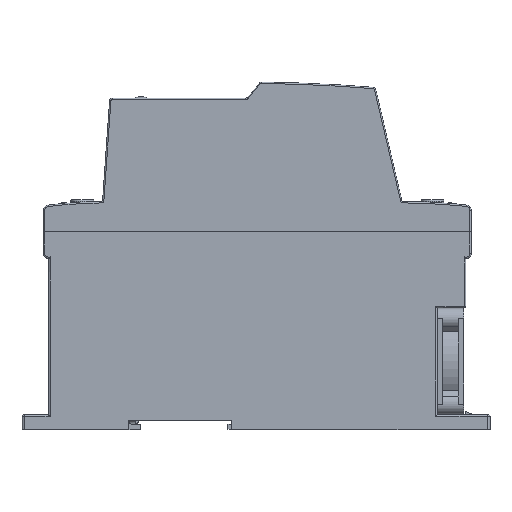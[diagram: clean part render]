
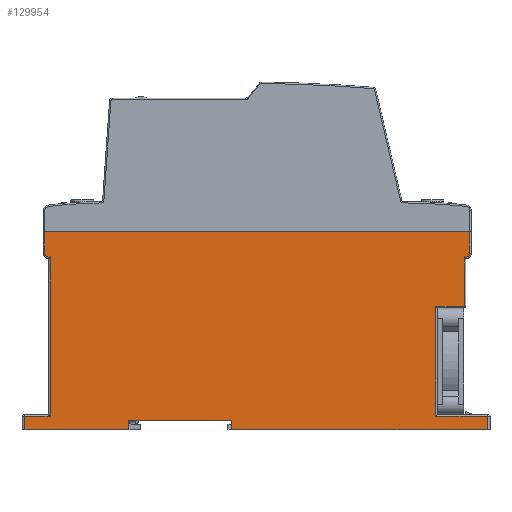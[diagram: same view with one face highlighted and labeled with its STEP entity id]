
A CAD part, top view. The second image highlights one B-rep face of the part: STEP entity #129954.
In plain terms, the highlighted planar face has unit normal (0, 0, 1).
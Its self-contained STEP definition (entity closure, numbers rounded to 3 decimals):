
#8657=PLANE('',#137326);
#12800=FACE_OUTER_BOUND('',#20056,.T.);
#20056=EDGE_LOOP('',(#90850,#90851,#90852,#90853,#90854,#90855,#90856,#90857,
#90858,#90859,#90860,#90861,#90862,#90863,#90864,#90865,#90866,#90867));
#27860=CIRCLE('',#137327,1.5);
#27861=CIRCLE('',#137328,1.5);
#31792=LINE('',#181103,#44760);
#31859=LINE('',#181235,#44827);
#31903=LINE('',#181316,#44871);
#32077=LINE('',#181703,#45045);
#32127=LINE('',#181789,#45095);
#32128=LINE('',#181791,#45096);
#32129=LINE('',#181792,#45097);
#32130=LINE('',#181794,#45098);
#32131=LINE('',#181795,#45099);
#32132=LINE('',#181797,#45100);
#32133=LINE('',#181799,#45101);
#32134=LINE('',#181801,#45102);
#32135=LINE('',#181803,#45103);
#32136=LINE('',#181805,#45104);
#32137=LINE('',#181808,#45105);
#32138=LINE('',#181810,#45106);
#44760=VECTOR('',#148021,1000.);
#44827=VECTOR('',#148122,1000.);
#44871=VECTOR('',#148178,1000.);
#45045=VECTOR('',#148424,1000.);
#45095=VECTOR('',#148482,1000.);
#45096=VECTOR('',#148483,1000.);
#45097=VECTOR('',#148484,1000.);
#45098=VECTOR('',#148485,1000.);
#45099=VECTOR('',#148486,1000.);
#45100=VECTOR('',#148487,1000.);
#45101=VECTOR('',#148488,1000.);
#45102=VECTOR('',#148489,1000.);
#45103=VECTOR('',#148490,1000.);
#45104=VECTOR('',#148491,1000.);
#45105=VECTOR('',#148494,1000.);
#45106=VECTOR('',#148495,1000.);
#58180=VERTEX_POINT('',#181101);
#58181=VERTEX_POINT('',#181102);
#58228=VERTEX_POINT('',#181232);
#58229=VERTEX_POINT('',#181234);
#58259=VERTEX_POINT('',#181313);
#58260=VERTEX_POINT('',#181315);
#58437=VERTEX_POINT('',#181701);
#58468=VERTEX_POINT('',#181787);
#58469=VERTEX_POINT('',#181788);
#58470=VERTEX_POINT('',#181790);
#58471=VERTEX_POINT('',#181793);
#58472=VERTEX_POINT('',#181796);
#58473=VERTEX_POINT('',#181798);
#58474=VERTEX_POINT('',#181800);
#58475=VERTEX_POINT('',#181802);
#58476=VERTEX_POINT('',#181804);
#58477=VERTEX_POINT('',#181806);
#58478=VERTEX_POINT('',#181809);
#70912=EDGE_CURVE('',#58180,#58181,#31792,.T.);
#70987=EDGE_CURVE('',#58229,#58228,#31859,.T.);
#71035=EDGE_CURVE('',#58260,#58259,#31903,.T.);
#71232=EDGE_CURVE('',#58259,#58437,#32077,.T.);
#71285=EDGE_CURVE('',#58468,#58469,#32127,.T.);
#71286=EDGE_CURVE('',#58469,#58470,#32128,.T.);
#71287=EDGE_CURVE('',#58470,#58180,#32129,.T.);
#71288=EDGE_CURVE('',#58471,#58181,#32130,.T.);
#71289=EDGE_CURVE('',#58260,#58471,#32131,.T.);
#71290=EDGE_CURVE('',#58437,#58472,#32132,.T.);
#71291=EDGE_CURVE('',#58472,#58473,#32133,.T.);
#71292=EDGE_CURVE('',#58473,#58474,#32134,.T.);
#71293=EDGE_CURVE('',#58474,#58475,#32135,.T.);
#71294=EDGE_CURVE('',#58475,#58476,#32136,.T.);
#71295=EDGE_CURVE('',#58476,#58477,#27860,.T.);
#71296=EDGE_CURVE('',#58477,#58229,#32137,.T.);
#71297=EDGE_CURVE('',#58228,#58478,#32138,.T.);
#71298=EDGE_CURVE('',#58478,#58468,#27861,.T.);
#90850=ORIENTED_EDGE('',*,*,#71285,.T.);
#90851=ORIENTED_EDGE('',*,*,#71286,.T.);
#90852=ORIENTED_EDGE('',*,*,#71287,.T.);
#90853=ORIENTED_EDGE('',*,*,#70912,.T.);
#90854=ORIENTED_EDGE('',*,*,#71288,.F.);
#90855=ORIENTED_EDGE('',*,*,#71289,.F.);
#90856=ORIENTED_EDGE('',*,*,#71035,.T.);
#90857=ORIENTED_EDGE('',*,*,#71232,.T.);
#90858=ORIENTED_EDGE('',*,*,#71290,.T.);
#90859=ORIENTED_EDGE('',*,*,#71291,.T.);
#90860=ORIENTED_EDGE('',*,*,#71292,.T.);
#90861=ORIENTED_EDGE('',*,*,#71293,.T.);
#90862=ORIENTED_EDGE('',*,*,#71294,.T.);
#90863=ORIENTED_EDGE('',*,*,#71295,.T.);
#90864=ORIENTED_EDGE('',*,*,#71296,.T.);
#90865=ORIENTED_EDGE('',*,*,#70987,.T.);
#90866=ORIENTED_EDGE('',*,*,#71297,.T.);
#90867=ORIENTED_EDGE('',*,*,#71298,.T.);
#129954=ADVANCED_FACE('',(#12800),#8657,.F.);
#137326=AXIS2_PLACEMENT_3D('',#181786,#148480,#148481);
#137327=AXIS2_PLACEMENT_3D('',#181807,#148492,#148493);
#137328=AXIS2_PLACEMENT_3D('',#181811,#148496,#148497);
#148021=DIRECTION('',(1.,0.,0.));
#148122=DIRECTION('',(-1.,0.,0.));
#148178=DIRECTION('',(0.,-1.,0.));
#148424=DIRECTION('',(1.,0.,0.));
#148480=DIRECTION('center_axis',(0.,0.,-1.));
#148481=DIRECTION('ref_axis',(-1.,0.,0.));
#148482=DIRECTION('',(0.,-1.,0.));
#148483=DIRECTION('',(-1.,0.,0.));
#148484=DIRECTION('',(0.,-1.,0.));
#148485=DIRECTION('',(0.,-1.,0.));
#148486=DIRECTION('',(-1.,0.,0.));
#148487=DIRECTION('',(0.,1.,0.));
#148488=DIRECTION('',(-1.,0.,0.));
#148489=DIRECTION('',(0.,1.,0.));
#148490=DIRECTION('',(1.,0.,0.));
#148491=DIRECTION('',(0.,1.,0.));
#148492=DIRECTION('center_axis',(0.,0.,1.));
#148493=DIRECTION('ref_axis',(-1.,0.,0.));
#148494=DIRECTION('',(0.,1.,0.));
#148495=DIRECTION('',(0.,-1.,0.));
#148496=DIRECTION('center_axis',(0.,0.,1.));
#148497=DIRECTION('ref_axis',(-1.,0.,0.));
#181101=CARTESIAN_POINT('',(-81.6,0.,22.5));
#181102=CARTESIAN_POINT('',(-42.6,0.,22.5));
#181103=CARTESIAN_POINT('',(-72.6,0.,22.5));
#181232=CARTESIAN_POINT('',(-74.1,74.,22.5));
#181234=CARTESIAN_POINT('',(84.9,74.,22.5));
#181235=CARTESIAN_POINT('',(57.887,74.,22.5));
#181313=CARTESIAN_POINT('',(-4.3,0.,22.5));
#181315=CARTESIAN_POINT('',(-4.3,3.5,22.5));
#181316=CARTESIAN_POINT('',(-4.3,3.5,22.5));
#181701=CARTESIAN_POINT('',(91.4,0.,22.5));
#181703=CARTESIAN_POINT('',(-72.6,0.,22.5));
#181786=CARTESIAN_POINT('Origin',(57.887,-164.695,22.5));
#181787=CARTESIAN_POINT('',(-72.1,64.586,22.5));
#181788=CARTESIAN_POINT('',(-72.1,5.,22.5));
#181789=CARTESIAN_POINT('',(-72.1,-164.695,22.5));
#181790=CARTESIAN_POINT('',(-81.6,5.,22.5));
#181791=CARTESIAN_POINT('',(57.887,5.,22.5));
#181792=CARTESIAN_POINT('',(-81.6,0.,22.5));
#181793=CARTESIAN_POINT('',(-42.6,3.5,22.5));
#181794=CARTESIAN_POINT('',(-42.6,3.5,22.5));
#181795=CARTESIAN_POINT('',(-42.6,3.5,22.5));
#181796=CARTESIAN_POINT('',(91.4,5.,22.5));
#181797=CARTESIAN_POINT('',(91.4,5.5,22.5));
#181798=CARTESIAN_POINT('',(72.1,5.,22.5));
#181799=CARTESIAN_POINT('',(57.887,5.,22.5));
#181800=CARTESIAN_POINT('',(72.1,46.1,22.5));
#181801=CARTESIAN_POINT('',(72.1,-164.695,22.5));
#181802=CARTESIAN_POINT('',(82.9,46.1,22.5));
#181803=CARTESIAN_POINT('',(57.887,46.1,22.5));
#181804=CARTESIAN_POINT('',(82.9,64.586,22.5));
#181805=CARTESIAN_POINT('',(82.9,-164.695,22.5));
#181806=CARTESIAN_POINT('',(84.9,66.,22.5));
#181807=CARTESIAN_POINT('Origin',(83.4,66.,22.5));
#181808=CARTESIAN_POINT('',(84.9,-164.695,22.5));
#181809=CARTESIAN_POINT('',(-74.1,66.,22.5));
#181810=CARTESIAN_POINT('',(-74.1,-164.695,22.5));
#181811=CARTESIAN_POINT('Origin',(-72.6,66.,22.5));
